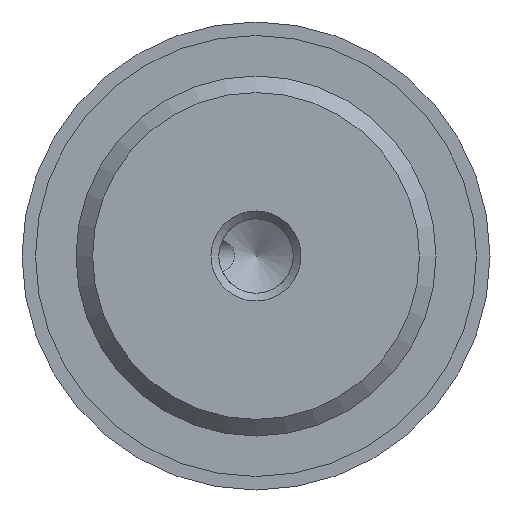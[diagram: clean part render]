
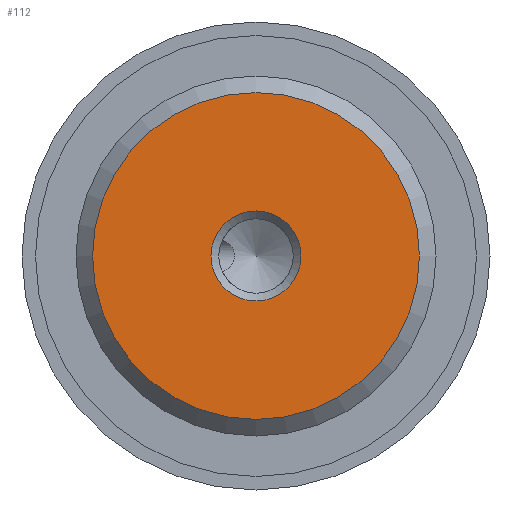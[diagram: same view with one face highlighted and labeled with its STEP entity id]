
A CAD part, front view. The second image highlights one B-rep face of the part: STEP entity #112.
In plain terms, the highlighted planar face has unit normal (0, -1, 0).
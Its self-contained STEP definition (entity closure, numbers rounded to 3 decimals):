
#112 = ADVANCED_FACE( '', ( #208, #209 ), #210, .F. );
#208 = FACE_BOUND( '', #330, .T. );
#209 = FACE_OUTER_BOUND( '', #331, .T. );
#210 = PLANE( '', #332 );
#330 = EDGE_LOOP( '', ( #652 ) );
#331 = EDGE_LOOP( '', ( #653 ) );
#332 = AXIS2_PLACEMENT_3D( '', #654, #655, #656 );
#652 = ORIENTED_EDGE( '', *, *, #874, .F. );
#653 = ORIENTED_EDGE( '', *, *, #876, .T. );
#654 = CARTESIAN_POINT( '', ( 9.08, 0., 0. ) );
#655 = DIRECTION( '', ( 0., 1., 0. ) );
#656 = DIRECTION( '', ( 0., 0., 1. ) );
#874 = EDGE_CURVE( '', #1066, #1066, #1067, .T. );
#876 = EDGE_CURVE( '', #1070, #1070, #1071, .T. );
#1066 = VERTEX_POINT( '', #1467 );
#1067 = CIRCLE( '', #1468, 2.5 );
#1070 = VERTEX_POINT( '', #1471 );
#1071 = CIRCLE( '', #1472, 9.08 );
#1467 = CARTESIAN_POINT( '', ( 2.5, 0., 0. ) );
#1468 = AXIS2_PLACEMENT_3D( '', #1603, #1604, #1605 );
#1471 = CARTESIAN_POINT( '', ( 0., 0., -9.08 ) );
#1472 = AXIS2_PLACEMENT_3D( '', #1609, #1610, #1611 );
#1603 = CARTESIAN_POINT( '', ( 0., 0., 0. ) );
#1604 = DIRECTION( '', ( 0., -1., 0. ) );
#1605 = DIRECTION( '', ( 1., 0., 0. ) );
#1609 = CARTESIAN_POINT( '', ( 0., 0., 0. ) );
#1610 = DIRECTION( '', ( 0., -1., 0. ) );
#1611 = DIRECTION( '', ( 0., 0., -1. ) );
